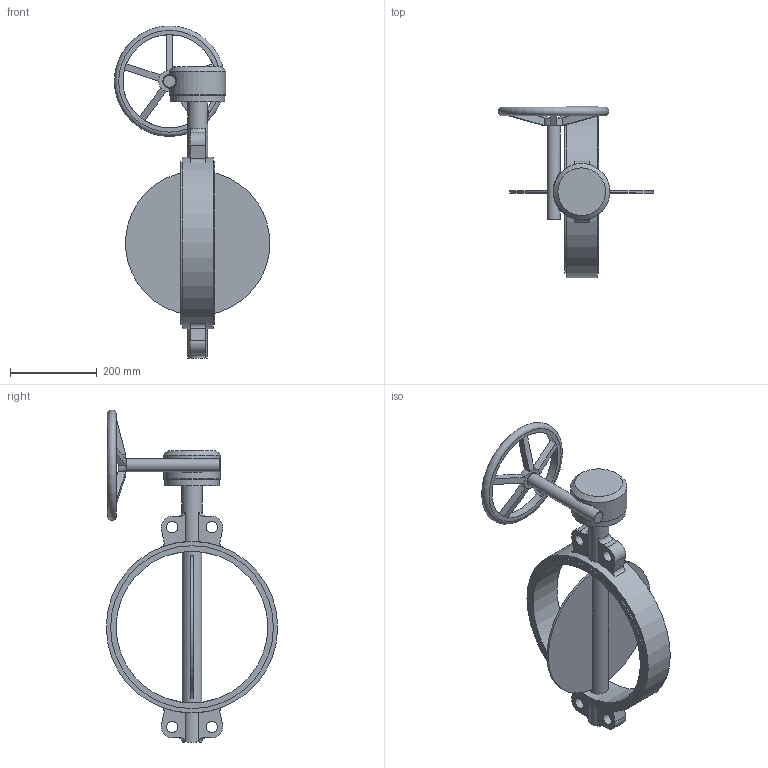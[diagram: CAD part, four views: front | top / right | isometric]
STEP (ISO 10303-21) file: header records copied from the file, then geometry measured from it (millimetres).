
FILE_DESCRIPTION(('STEP AP203'), '1');
FILE_NAME('青蜮铕 017W.Y_DN350_PN16_疱潴牝铕', '', ('UNSPECIFIED'), ('UNSPECIFIED'), 'ASCON STEP Converter 1.6', 'ASCON Math Kernel', '');
FILE_SCHEMA(('CONFIG_CONTROL_DESIGN'));
Length unit declared in the file: millimetre
Bounding box: 358.56 x 395.6 x 766 mm (x, y, z)
Volume: 5158645.7 mm3; surface area: 645091.2 mm2
Topology: 1 solids, 1 shells, 139 faces, 334 edges, 206 vertices
Faces by surface type: plane 64, cylinder 46, cone 19, torus 8, bspline 2
Full cylindrical faces by diameter (mm): 10.106 x4, 12 x4, 26 x4, 30 x1, 45 x1, 47 x1, 125 x1, 130 x1, 215 x1, 350 x1, 375.6 x2, 395.6 x1
Entity records: 7193 total; most frequent: CARTESIAN_POINT 2919, DIRECTION 670, ORIENTED_EDGE 586, EDGE_CURVE 293, AXIS2_PLACEMENT_3D 283, EDGE_LOOP 207, VERTEX_POINT 202, CIRCLE 145
